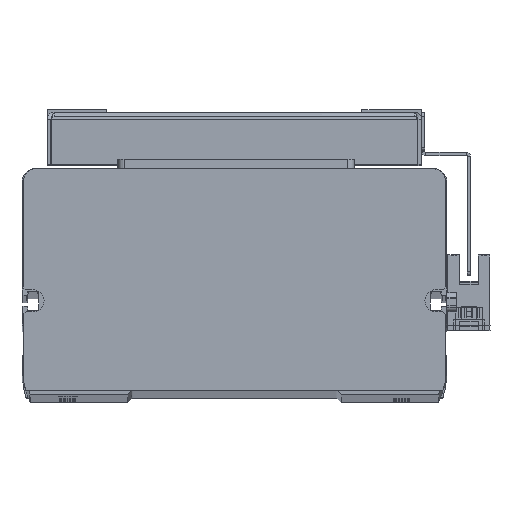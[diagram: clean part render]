
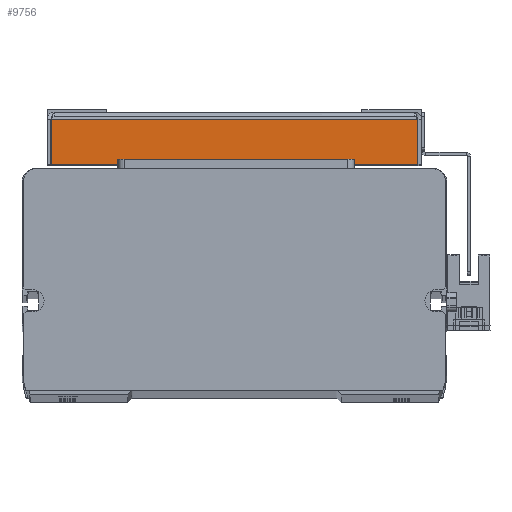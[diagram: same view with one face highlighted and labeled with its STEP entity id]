
A CAD part, top view. The second image highlights one B-rep face of the part: STEP entity #9756.
In plain terms, the highlighted planar face has unit normal (0, 0, 1) as drawn and (0, 1, 0) by its records, which use the part's own axes.
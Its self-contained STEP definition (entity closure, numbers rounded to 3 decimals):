
#916 = CARTESIAN_POINT ( 'NONE',  ( -59.5, 95., 14.3 ) ) ;
#1261 = EDGE_CURVE ( 'NONE', #4592, #16477, #9185, .T. ) ;
#1403 = DIRECTION ( 'NONE',  ( 0., -1., 0. ) ) ;
#1789 = VECTOR ( 'NONE', #7402, 1000. ) ;
#2333 = CARTESIAN_POINT ( 'NONE',  ( 58.2, 95., 0. ) ) ;
#3166 = ORIENTED_EDGE ( 'NONE', *, *, #1261, .F. ) ;
#4076 = EDGE_CURVE ( 'NONE', #16477, #10681, #11532, .T. ) ;
#4592 = VERTEX_POINT ( 'NONE', #7655 ) ;
#5370 = CARTESIAN_POINT ( 'NONE',  ( -58.2, 95., 0. ) ) ;
#5892 = DIRECTION ( 'NONE',  ( 0., 0., 1. ) ) ;
#6291 = CARTESIAN_POINT ( 'NONE',  ( -58.2, 95., 14.3 ) ) ;
#6794 = VECTOR ( 'NONE', #12479, 1000. ) ;
#7007 = PLANE ( 'NONE',  #14095 ) ;
#7081 = CARTESIAN_POINT ( 'NONE',  ( 58.2, 95., 14.3 ) ) ;
#7402 = DIRECTION ( 'NONE',  ( 0., 0., -1. ) ) ;
#7655 = CARTESIAN_POINT ( 'NONE',  ( 58.2, 95., 14.3 ) ) ;
#7684 = ORIENTED_EDGE ( 'NONE', *, *, #9536, .T. ) ;
#9185 = LINE ( 'NONE', #916, #15623 ) ;
#9536 = EDGE_CURVE ( 'NONE', #17095, #10681, #16463, .T. ) ;
#9756 = ADVANCED_FACE ( 'NONE', ( #13930 ), #7007, .F. ) ;
#10442 = EDGE_LOOP ( 'NONE', ( #3166, #13582, #7684, #12530 ) ) ;
#10681 = VERTEX_POINT ( 'NONE', #5370 ) ;
#11390 = LINE ( 'NONE', #7081, #14856 ) ;
#11532 = LINE ( 'NONE', #6291, #1789 ) ;
#12479 = DIRECTION ( 'NONE',  ( -1., 0., 0. ) ) ;
#12530 = ORIENTED_EDGE ( 'NONE', *, *, #4076, .F. ) ;
#12570 = CARTESIAN_POINT ( 'NONE',  ( 0., 95., 15.3 ) ) ;
#13582 = ORIENTED_EDGE ( 'NONE', *, *, #14046, .T. ) ;
#13930 = FACE_OUTER_BOUND ( 'NONE', #10442, .T. ) ;
#14046 = EDGE_CURVE ( 'NONE', #4592, #17095, #11390, .T. ) ;
#14095 = AXIS2_PLACEMENT_3D ( 'NONE', #12570, #1403, #5892 ) ;
#14856 = VECTOR ( 'NONE', #16717, 1000. ) ;
#14954 = CARTESIAN_POINT ( 'NONE',  ( 0., 95., 0. ) ) ;
#15623 = VECTOR ( 'NONE', #17501, 1000. ) ;
#16463 = LINE ( 'NONE', #14954, #6794 ) ;
#16477 = VERTEX_POINT ( 'NONE', #16602 ) ;
#16602 = CARTESIAN_POINT ( 'NONE',  ( -58.2, 95., 14.3 ) ) ;
#16717 = DIRECTION ( 'NONE',  ( 0., 0., -1. ) ) ;
#17095 = VERTEX_POINT ( 'NONE', #2333 ) ;
#17501 = DIRECTION ( 'NONE',  ( -1., 0., 0. ) ) ;
